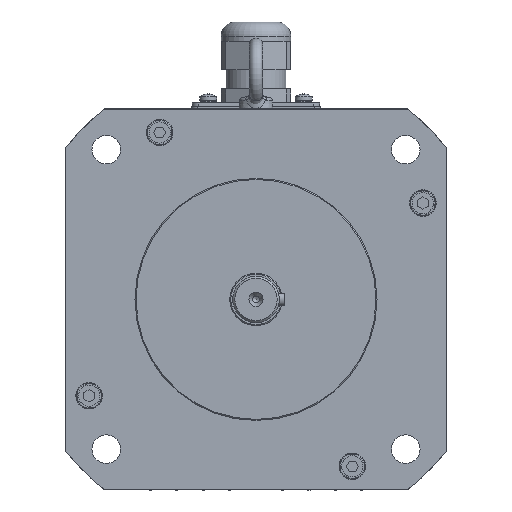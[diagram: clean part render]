
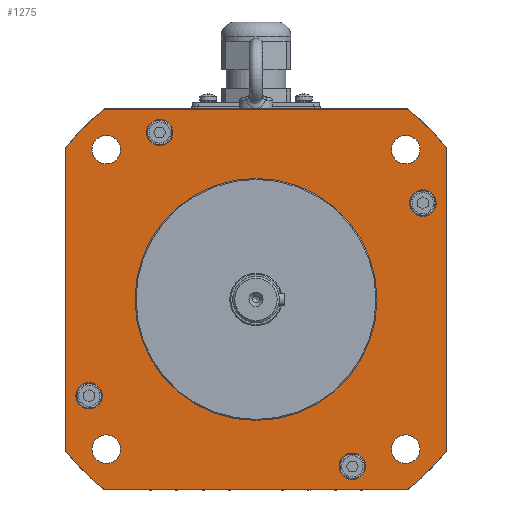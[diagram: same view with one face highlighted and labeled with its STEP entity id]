
A CAD part, front view. The second image highlights one B-rep face of the part: STEP entity #1275.
In plain terms, the highlighted planar face has unit normal (0, -1, 0).
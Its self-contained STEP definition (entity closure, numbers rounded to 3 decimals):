
#1275=ADVANCED_FACE('',(#4177,#4178,#4179,#4180,#4181,#4182,#4183,#4184,#4185,#4186),#4187,.F.);
#4177=FACE_BOUND('',#8650,.T.);
#4178=FACE_BOUND('',#8651,.T.);
#4179=FACE_BOUND('',#8652,.T.);
#4180=FACE_BOUND('',#8653,.T.);
#4181=FACE_BOUND('',#8654,.T.);
#4182=FACE_BOUND('',#8655,.T.);
#4183=FACE_BOUND('',#8656,.T.);
#4184=FACE_BOUND('',#8657,.T.);
#4185=FACE_BOUND('',#8658,.T.);
#4186=FACE_OUTER_BOUND('',#8659,.T.);
#4187=PLANE('',#8660);
#8650=EDGE_LOOP('',(#19483));
#8651=EDGE_LOOP('',(#19484));
#8652=EDGE_LOOP('',(#19485));
#8653=EDGE_LOOP('',(#19486));
#8654=EDGE_LOOP('',(#19487));
#8655=EDGE_LOOP('',(#19488));
#8656=EDGE_LOOP('',(#19489));
#8657=EDGE_LOOP('',(#19490));
#8658=EDGE_LOOP('',(#19491));
#8659=EDGE_LOOP('',(#19492,#19493,#19494,#19495,#19496,#19497,#19498,#19499));
#8660=AXIS2_PLACEMENT_3D('',#19500,#19501,#19502);
#19483=ORIENTED_EDGE('',*,*,#25998,.T.);
#19484=ORIENTED_EDGE('',*,*,#25997,.T.);
#19485=ORIENTED_EDGE('',*,*,#25996,.T.);
#19486=ORIENTED_EDGE('',*,*,#25994,.T.);
#19487=ORIENTED_EDGE('',*,*,#25999,.T.);
#19488=ORIENTED_EDGE('',*,*,#25770,.T.);
#19489=ORIENTED_EDGE('',*,*,#25774,.T.);
#19490=ORIENTED_EDGE('',*,*,#25781,.T.);
#19491=ORIENTED_EDGE('',*,*,#25789,.T.);
#19492=ORIENTED_EDGE('',*,*,#26000,.T.);
#19493=ORIENTED_EDGE('',*,*,#26001,.T.);
#19494=ORIENTED_EDGE('',*,*,#25892,.T.);
#19495=ORIENTED_EDGE('',*,*,#25889,.T.);
#19496=ORIENTED_EDGE('',*,*,#25887,.T.);
#19497=ORIENTED_EDGE('',*,*,#26002,.T.);
#19498=ORIENTED_EDGE('',*,*,#26003,.T.);
#19499=ORIENTED_EDGE('',*,*,#26004,.T.);
#19500=CARTESIAN_POINT('',(57.15,-21.0,0.));
#19501=DIRECTION('',(0.,1.0,0.));
#19502=DIRECTION('',(0.0,0.,-1.0));
#25770=EDGE_CURVE('',#31381,#31381,#31382,.T.);
#25774=EDGE_CURVE('',#31389,#31389,#31390,.T.);
#25781=EDGE_CURVE('',#31403,#31403,#31404,.T.);
#25789=EDGE_CURVE('',#31419,#31419,#31420,.T.);
#25887=EDGE_CURVE('',#31579,#31577,#31580,.T.);
#25889=EDGE_CURVE('',#31582,#31579,#31583,.T.);
#25892=EDGE_CURVE('',#31586,#31582,#31587,.T.);
#25994=EDGE_CURVE('',#31732,#31732,#31733,.T.);
#25996=EDGE_CURVE('',#31736,#31736,#31737,.T.);
#25997=EDGE_CURVE('',#31738,#31738,#31739,.T.);
#25998=EDGE_CURVE('',#31740,#31740,#31741,.T.);
#25999=EDGE_CURVE('',#31742,#31742,#31743,.T.);
#26000=EDGE_CURVE('',#31744,#31745,#31746,.T.);
#26001=EDGE_CURVE('',#31745,#31586,#31747,.T.);
#26002=EDGE_CURVE('',#31577,#31748,#31749,.T.);
#26003=EDGE_CURVE('',#31748,#31750,#31751,.T.);
#26004=EDGE_CURVE('',#31750,#31744,#31752,.T.);
#31381=VERTEX_POINT('',#40845);
#31382=CIRCLE('',#40846,6.25);
#31389=VERTEX_POINT('',#40853);
#31390=CIRCLE('',#40854,6.25);
#31403=VERTEX_POINT('',#40869);
#31404=CIRCLE('',#40870,6.25);
#31419=VERTEX_POINT('',#40887);
#31420=CIRCLE('',#40888,6.25);
#31577=VERTEX_POINT('',#41108);
#31579=VERTEX_POINT('',#41111);
#31580=CIRCLE('',#41112,114.9);
#31582=VERTEX_POINT('',#41115);
#31583=LINE('',#41116,#41117);
#31586=VERTEX_POINT('',#41122);
#31587=CIRCLE('',#41123,114.9);
#31732=VERTEX_POINT('',#41330);
#31733=CIRCLE('',#41331,6.75);
#31736=VERTEX_POINT('',#41334);
#31737=CIRCLE('',#41335,6.75);
#31738=VERTEX_POINT('',#41336);
#31739=CIRCLE('',#41337,6.75);
#31740=VERTEX_POINT('',#41338);
#31741=CIRCLE('',#41339,57.15);
#31742=VERTEX_POINT('',#41340);
#31743=CIRCLE('',#41341,6.75);
#31744=VERTEX_POINT('',#41342);
#31745=VERTEX_POINT('',#41343);
#31746=CIRCLE('',#41344,114.9);
#31747=LINE('',#41345,#41346);
#31748=VERTEX_POINT('',#41347);
#31749=LINE('',#41348,#41349);
#31750=VERTEX_POINT('',#41350);
#31751=CIRCLE('',#41351,114.9);
#31752=LINE('',#41352,#41353);
#40845=CARTESIAN_POINT('',(-72.558,-21.0,-45.5));
#40846=AXIS2_PLACEMENT_3D('',#47963,#47964,#47965);
#40853=CARTESIAN_POINT('',(45.5,-21.0,-72.558));
#40854=AXIS2_PLACEMENT_3D('',#47975,#47976,#47977);
#40869=CARTESIAN_POINT('',(72.558,-21.0,45.5));
#40870=AXIS2_PLACEMENT_3D('',#47992,#47993,#47994);
#40887=CARTESIAN_POINT('',(-45.5,-21.0,72.558));
#40888=AXIS2_PLACEMENT_3D('',#48012,#48013,#48014);
#41108=CARTESIAN_POINT('',(-71.554,-21.0,-89.9));
#41111=CARTESIAN_POINT('',(-89.9,-21.0,-71.554));
#41112=AXIS2_PLACEMENT_3D('',#48178,#48179,#48180);
#41115=CARTESIAN_POINT('',(-89.9,-21.0,71.554));
#41116=CARTESIAN_POINT('',(-89.9,-21.0,-71.589));
#41117=VECTOR('',#48182,1.0);
#41122=CARTESIAN_POINT('',(-71.554,-21.0,89.9));
#41123=AXIS2_PLACEMENT_3D('',#48185,#48186,#48187);
#41330=CARTESIAN_POINT('',(63.961,-21.0,-70.711));
#41331=AXIS2_PLACEMENT_3D('',#48367,#48368,#48369);
#41334=CARTESIAN_POINT('',(-77.461,-21.0,-70.711));
#41335=AXIS2_PLACEMENT_3D('',#48373,#48374,#48375);
#41336=CARTESIAN_POINT('',(-77.461,-21.0,70.711));
#41337=AXIS2_PLACEMENT_3D('',#48376,#48377,#48378);
#41338=CARTESIAN_POINT('',(57.15,-21.0,0.));
#41339=AXIS2_PLACEMENT_3D('',#48379,#48380,#48381);
#41340=CARTESIAN_POINT('',(63.961,-21.0,70.711));
#41341=AXIS2_PLACEMENT_3D('',#48382,#48383,#48384);
#41342=CARTESIAN_POINT('',(89.9,-21.0,71.554));
#41343=CARTESIAN_POINT('',(71.554,-21.0,89.9));
#41344=AXIS2_PLACEMENT_3D('',#48385,#48386,#48387);
#41345=CARTESIAN_POINT('',(-71.589,-21.0,89.9));
#41346=VECTOR('',#48388,1.0);
#41347=CARTESIAN_POINT('',(71.554,-21.0,-89.9));
#41348=CARTESIAN_POINT('',(71.589,-21.0,-89.9));
#41349=VECTOR('',#48389,1.0);
#41350=CARTESIAN_POINT('',(89.9,-21.0,-71.554));
#41351=AXIS2_PLACEMENT_3D('',#48390,#48391,#48392);
#41352=CARTESIAN_POINT('',(89.9,-21.0,71.589));
#41353=VECTOR('',#48393,1.0);
#47963=CARTESIAN_POINT('',(-78.808,-21.0,-45.5));
#47964=DIRECTION('',(0.,1.0,0.));
#47965=DIRECTION('',(1.0,0.,0.));
#47975=CARTESIAN_POINT('',(45.5,-21.0,-78.808));
#47976=DIRECTION('',(0.,1.0,0.));
#47977=DIRECTION('',(0.,0.,1.0));
#47992=CARTESIAN_POINT('',(78.808,-21.0,45.5));
#47993=DIRECTION('',(0.,1.0,0.));
#47994=DIRECTION('',(-1.0,0.,0.));
#48012=CARTESIAN_POINT('',(-45.5,-21.0,78.808));
#48013=DIRECTION('',(0.,1.0,0.));
#48014=DIRECTION('',(0.,0.,-1.0));
#48178=CARTESIAN_POINT('',(0.,-21.0,0.));
#48179=DIRECTION('',(0.,-1.0,0.));
#48180=DIRECTION('',(-1.0,0.,0.));
#48182=DIRECTION('',(0.,0.,-1.0));
#48185=CARTESIAN_POINT('',(0.,-21.0,0.));
#48186=DIRECTION('',(0.,-1.0,0.));
#48187=DIRECTION('',(-1.0,0.,0.));
#48367=CARTESIAN_POINT('',(70.711,-21.0,-70.711));
#48368=DIRECTION('',(0.,1.0,0.));
#48369=DIRECTION('',(-1.0,0.,0.));
#48373=CARTESIAN_POINT('',(-70.711,-21.0,-70.711));
#48374=DIRECTION('',(0.,1.0,0.));
#48375=DIRECTION('',(-1.0,0.,0.));
#48376=CARTESIAN_POINT('',(-70.711,-21.0,70.711));
#48377=DIRECTION('',(0.,1.0,0.));
#48378=DIRECTION('',(-1.0,0.,0.));
#48379=CARTESIAN_POINT('',(0.,-21.0,0.));
#48380=DIRECTION('',(0.,1.0,0.));
#48381=DIRECTION('',(1.0,0.,0.));
#48382=CARTESIAN_POINT('',(70.711,-21.0,70.711));
#48383=DIRECTION('',(0.,1.0,0.));
#48384=DIRECTION('',(-1.0,0.,0.));
#48385=CARTESIAN_POINT('',(0.,-21.0,0.));
#48386=DIRECTION('',(0.,-1.0,0.));
#48387=DIRECTION('',(-1.0,0.,0.));
#48388=DIRECTION('',(-1.0,0.,0.));
#48389=DIRECTION('',(1.0,0.,0.));
#48390=CARTESIAN_POINT('',(0.,-21.0,0.));
#48391=DIRECTION('',(0.,-1.0,0.));
#48392=DIRECTION('',(-1.0,0.,0.));
#48393=DIRECTION('',(0.,0.,1.0));
